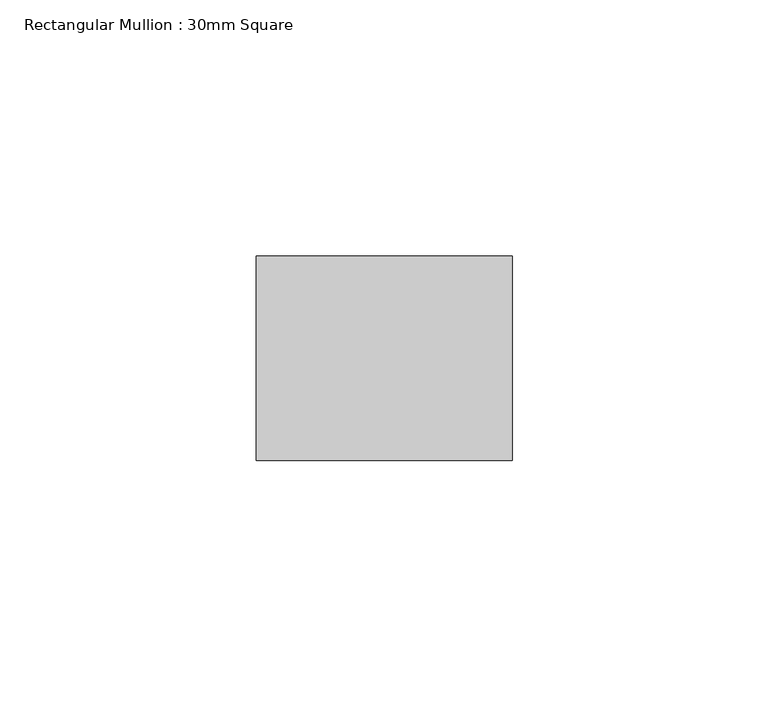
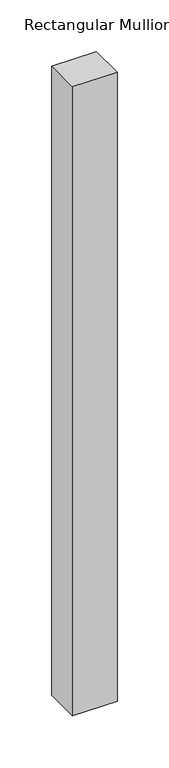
"""IFC4 building model written with IfcOpenShell, lengths in millimetres: member geometry, Rectangular Mullion : 30mm Square."""

from ifc_helpers import new_model, si_unit, frame, origin, place, context, project, spatial, polyline, outline, extrude, source, transform, mapped, element, save


def rectangular_mullion_30mm_square_00888295(model_context):
    return source(origin(), model_context, "Body", "SweptSolid", [
        extrude(outline(polyline([(0.0, 20.0), (0.0, -20.0), (-50.0, -20.0), (-50.0, 20.0), (0.0, 20.0)])), frame((0.0, 0.0, -743.8730163), z_axis=(0.0, 0.0, 1.0), x_axis=(1.0, 0.0, 0.0)), (0.0, 0.0, 1.0), 743.8730163),
    ])


if __name__ == "__main__":
    model = new_model("IFC4")
    model_context = context("Model", 3, world=origin())
    ifc_project = project(units=[si_unit("LENGTHUNIT", "METRE", prefix="MILLI")], contexts=[model_context])
    site = spatial("IfcSite", under=ifc_project)
    building = spatial("IfcBuilding", under=site)
    placement = place(None, origin())
    rectangular_mullion_30mm_square_shape = rectangular_mullion_30mm_square_00888295(model_context)
    element("IfcMember", 1, ObjectType="Rectangular Mullion : 30mm Square", at=placement, inside=building, context=model_context, shape_type="MappedRepresentation", body=[
        mapped(rectangular_mullion_30mm_square_shape, transform((0.0, 0.0, 0.0), x_axis=(1.0, 0.0, 0.0), y_axis=(0.0, 1.0, 0.0), z_axis=(0.0, 0.0, 1.0))),
    ])
    save(model, "model.ifc")
